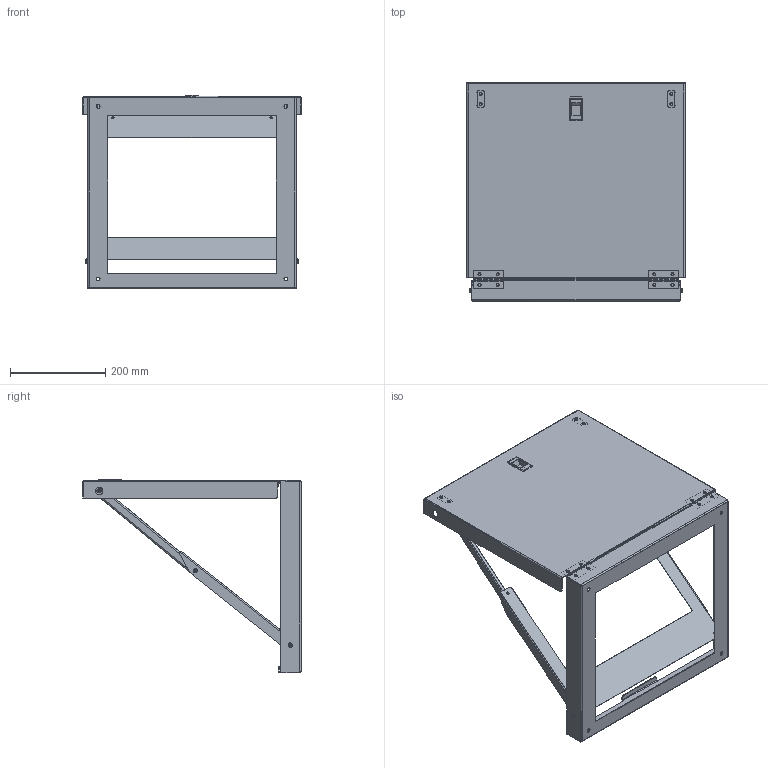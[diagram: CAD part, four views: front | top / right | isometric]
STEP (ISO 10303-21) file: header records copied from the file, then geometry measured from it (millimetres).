
FILE_DESCRIPTION((''),'2;1');
FILE_NAME('MODEL-100_OPEN_ASM','2017-03-06T',('JoelB'),('SAGINAW CONTROL & ENGINEERING'),'PRO/ENGINEER BY PARAMETRIC TECHNOLOGY CORPORATION, 2012070','PRO/ENGINEER BY PARAMETRIC TECHNOLOGY CORPORATION, 2012070','');
FILE_SCHEMA(('AUTOMOTIVE_DESIGN { 1 0 10303 214 1 1 1 1 }'));
Length unit declared in the file: inch
Products named in the file (22): MODEL-100-BASE; 100062; MODEL-100-BASE-ASSY_ASM; 118216-BOX; 118216-PIN; 118216-DOOR; 118216_ASM; MODEL-100-SHLF; 118386; MODEL-100-SHELF-ASSY_ASM; 100897; 101779_LATCH; 101779_ASM; MODEL-100-BTM-SPT; 100022; MODEL-100-BOT-SPT-ASSY_ASM; 101024; 102407; MODEL-100-TOP-SPT; MODEL-100-TOP-SPT-ASSY_ASM; 118387; MODEL-100_OPEN_ASM
Assembly tree (60 placements, depth 3):
  MODEL-100_OPEN_ASM
    MODEL-100-BASE-ASSY_ASM
      MODEL-100-BASE
      100062  x4
    118216_ASM  x2
      118216-BOX
      118216-PIN
      118216-DOOR
    MODEL-100-SHELF-ASSY_ASM
      MODEL-100-SHLF
      118386  x2
      100062  x8
    100897  x12
    101779_ASM
      101779_LATCH
    MODEL-100-BOT-SPT-ASSY_ASM
      MODEL-100-BTM-SPT
      100022  x4
    101024  x6
    102407  x6
    MODEL-100-TOP-SPT-ASSY_ASM
      MODEL-100-TOP-SPT
      100022  x2
    118387
Bounding box: 457.2 x 457.2 x 406.14 mm (x, y, z)
Volume: 681947 mm3; surface area: 1000120.4 mm2
Topology: 55 solids, 55 shells, 2214 faces, 5602 edges, 3529 vertices
Faces by surface type: plane 1242, cylinder 453, torus 243, cone 171, bspline 57, sphere 48
Entity records: 34620 total; most frequent: CARTESIAN_POINT 8570, DIRECTION 4114, ORIENTED_EDGE 3840, PRESENTATION_STYLE_ASSIGNMENT 1935, STYLED_ITEM 1935, CURVE_STYLE 1920, EDGE_CURVE 1920, AXIS2_PLACEMENT_3D 1534
